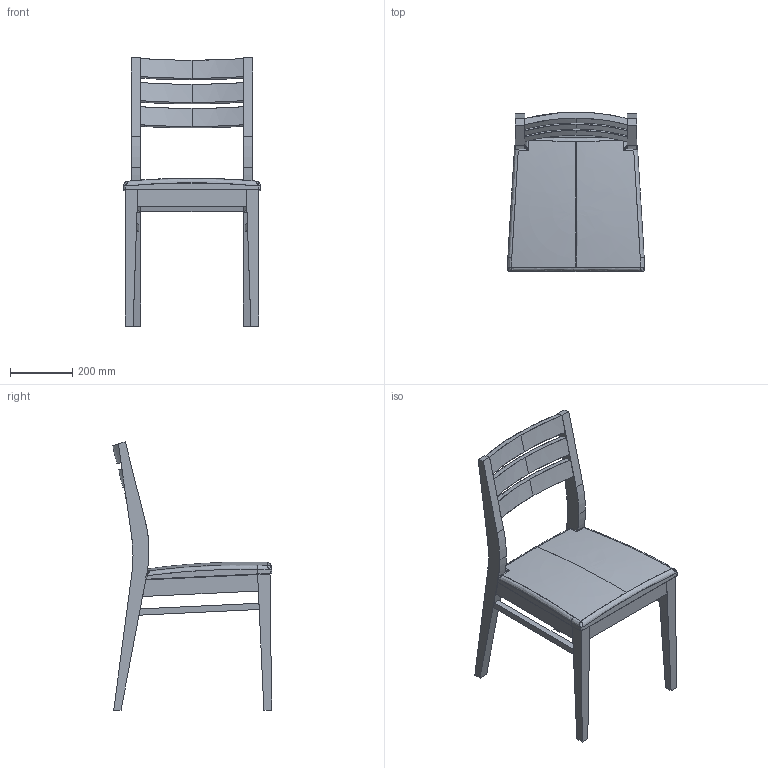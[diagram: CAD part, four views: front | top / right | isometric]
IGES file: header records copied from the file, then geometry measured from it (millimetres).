
Start section: SolidWorks IGES file using analytic representation for surfaces
Global section: file name: C:\Users\Adao\Documents\Trab Adao\Desenho técnico PRODUÇÃO\J M S\MARTY\MARTY (3D)\Cadeira MARTY M-433.IGS; native system: SolidWorks 2012; preprocessor: SolidWorks 2012; author: Adao; date: 121219.153657; units: millimetre
Bounding box: 439 x 513.03 x 863 mm (x, y, z)
Surface area: 1234272.5 mm2 (no closed solid volume)
Topology: 0 solids, 0 shells, 168 faces, 1222 edges, 1217 vertices
Faces by surface type: bspline 138, revolution 30
